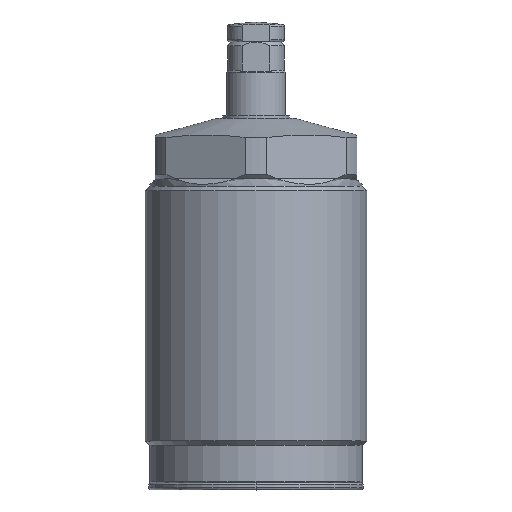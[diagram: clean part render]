
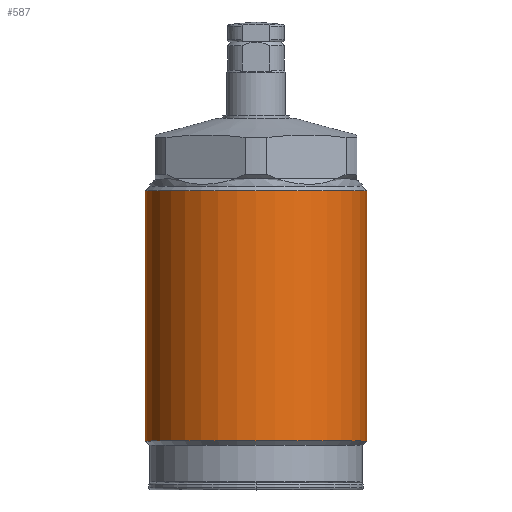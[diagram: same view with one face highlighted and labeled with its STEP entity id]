
A CAD part, top view. The second image highlights one B-rep face of the part: STEP entity #587.
In plain terms, the highlighted cylindrical face has radius 22.5 mm (diameter 45 mm), a full revolution.
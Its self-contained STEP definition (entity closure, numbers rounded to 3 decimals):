
#279=FACE_BOUND('',#898,.T.);
#280=FACE_BOUND('',#899,.T.);
#328=CYLINDRICAL_SURFACE('',#2473,22.5);
#393=LINE('',#3976,#471);
#394=LINE('',#3981,#472);
#471=VECTOR('',#3097,1.);
#472=VECTOR('',#3100,1.);
#587=ADVANCED_FACE('',(#279,#280),#328,.T.);
#898=EDGE_LOOP('',(#1354));
#899=EDGE_LOOP('',(#1355,#1356,#1357,#1358,#1359,#1360));
#1354=ORIENTED_EDGE('',*,*,#1963,.T.);
#1355=ORIENTED_EDGE('',*,*,#1964,.F.);
#1356=ORIENTED_EDGE('',*,*,#1964,.T.);
#1357=ORIENTED_EDGE('',*,*,#1965,.T.);
#1358=ORIENTED_EDGE('',*,*,#1966,.F.);
#1359=ORIENTED_EDGE('',*,*,#1966,.T.);
#1360=ORIENTED_EDGE('',*,*,#1967,.T.);
#1702=VERTEX_POINT('',#3975);
#1703=VERTEX_POINT('',#3977);
#1704=VERTEX_POINT('',#3978);
#1705=VERTEX_POINT('',#3980);
#1706=VERTEX_POINT('',#3982);
#1963=EDGE_CURVE('',#1702,#1702,#2189,.T.);
#1964=EDGE_CURVE('',#1703,#1704,#393,.T.);
#1965=EDGE_CURVE('',#1704,#1705,#2190,.T.);
#1966=EDGE_CURVE('',#1706,#1705,#394,.T.);
#1967=EDGE_CURVE('',#1705,#1704,#2191,.T.);
#2189=CIRCLE('',#2470,22.5);
#2190=CIRCLE('',#2471,22.5);
#2191=CIRCLE('',#2472,22.5);
#2470=AXIS2_PLACEMENT_3D('',#3974,#3095,#3096);
#2471=AXIS2_PLACEMENT_3D('',#3979,#3098,#3099);
#2472=AXIS2_PLACEMENT_3D('',#3983,#3101,#3102);
#2473=AXIS2_PLACEMENT_3D('',#3984,#3103,#3104);
#3095=DIRECTION('',(0.,-1.,0.));
#3096=DIRECTION('',(-1.,0.,0.));
#3097=DIRECTION('',(0.,-1.,0.));
#3098=DIRECTION('',(0.,1.,0.));
#3099=DIRECTION('',(-1.,0.,0.));
#3100=DIRECTION('',(0.,-1.,0.));
#3101=DIRECTION('',(0.,1.,0.));
#3102=DIRECTION('',(-1.,0.,0.));
#3103=DIRECTION('',(0.,1.,0.));
#3104=DIRECTION('',(-1.,0.,0.));
#3974=CARTESIAN_POINT('',(0.,59.4,0.));
#3975=CARTESIAN_POINT('',(-22.5,59.4,0.));
#3976=CARTESIAN_POINT('',(-22.5,66.3,0.));
#3977=CARTESIAN_POINT('',(-22.5,54.1,0.));
#3978=CARTESIAN_POINT('',(-22.5,8.6,0.));
#3979=CARTESIAN_POINT('',(0.,8.6,0.));
#3980=CARTESIAN_POINT('',(22.5,8.6,0.));
#3981=CARTESIAN_POINT('',(22.5,66.3,0.));
#3982=CARTESIAN_POINT('',(22.5,54.1,0.));
#3983=CARTESIAN_POINT('',(0.,8.6,0.));
#3984=CARTESIAN_POINT('',(0.,66.3,0.));
